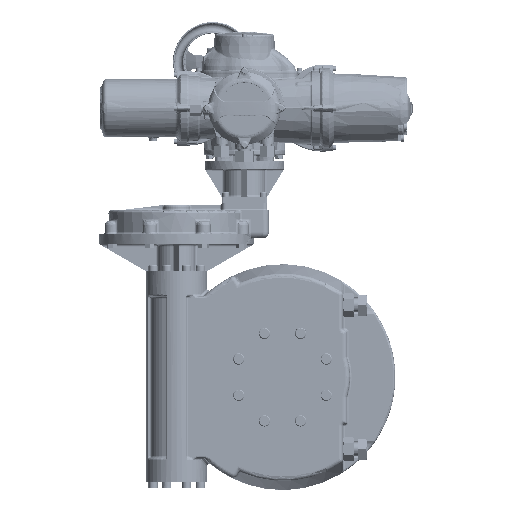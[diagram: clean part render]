
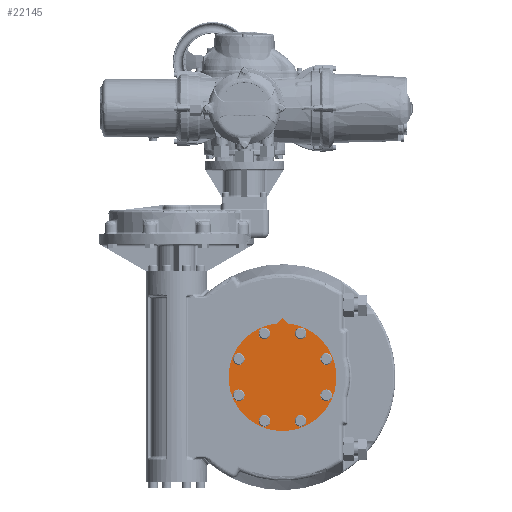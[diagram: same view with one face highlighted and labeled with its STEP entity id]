
A CAD part, front view. The second image highlights one B-rep face of the part: STEP entity #22145.
In plain terms, the highlighted planar face has unit normal (0, -1, 0).
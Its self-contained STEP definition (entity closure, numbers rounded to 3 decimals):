
#22145 = ADVANCED_FACE( '', ( #45893, #45894, #45895, #45896, #45897, #45898, #45899, #45900, #45901 ), #45902, .F. );
#45893 = FACE_BOUND( '', #322250, .T. );
#45894 = FACE_BOUND( '', #322251, .T. );
#45895 = FACE_BOUND( '', #322252, .T. );
#45896 = FACE_BOUND( '', #322253, .T. );
#45897 = FACE_OUTER_BOUND( '', #322254, .T. );
#45898 = FACE_BOUND( '', #322255, .T. );
#45899 = FACE_BOUND( '', #322256, .T. );
#45900 = FACE_BOUND( '', #322257, .T. );
#45901 = FACE_BOUND( '', #322258, .T. );
#45902 = PLANE( '', #322259 );
#322250 = EDGE_LOOP( '', ( #421694 ) );
#322251 = EDGE_LOOP( '', ( #421695 ) );
#322252 = EDGE_LOOP( '', ( #421696 ) );
#322253 = EDGE_LOOP( '', ( #421697 ) );
#322254 = EDGE_LOOP( '', ( #421698, #421699, #421700 ) );
#322255 = EDGE_LOOP( '', ( #421701 ) );
#322256 = EDGE_LOOP( '', ( #421702 ) );
#322257 = EDGE_LOOP( '', ( #421703 ) );
#322258 = EDGE_LOOP( '', ( #421704 ) );
#322259 = AXIS2_PLACEMENT_3D( '', #421705, #421706, #421707 );
#421694 = ORIENTED_EDGE( '', *, *, #445129, .F. );
#421695 = ORIENTED_EDGE( '', *, *, #436410, .F. );
#421696 = ORIENTED_EDGE( '', *, *, #453626, .F. );
#421697 = ORIENTED_EDGE( '', *, *, #431856, .F. );
#421698 = ORIENTED_EDGE( '', *, *, #437914, .F. );
#421699 = ORIENTED_EDGE( '', *, *, #453627, .F. );
#421700 = ORIENTED_EDGE( '', *, *, #448980, .F. );
#421701 = ORIENTED_EDGE( '', *, *, #443522, .F. );
#421702 = ORIENTED_EDGE( '', *, *, #438401, .F. );
#421703 = ORIENTED_EDGE( '', *, *, #431432, .F. );
#421704 = ORIENTED_EDGE( '', *, *, #451652, .F. );
#421705 = CARTESIAN_POINT( '', ( 100.49, -63., -710.1 ) );
#421706 = DIRECTION( '', ( 0., 1., 0. ) );
#421707 = DIRECTION( '', ( 0., 0., 1. ) );
#431432 = EDGE_CURVE( '', #459857, #459857, #459858, .T. );
#431856 = EDGE_CURVE( '', #460588, #460588, #460589, .T. );
#436410 = EDGE_CURVE( '', #468184, #468184, #468185, .T. );
#437914 = EDGE_CURVE( '', #470532, #470534, #470535, .T. );
#438401 = EDGE_CURVE( '', #471272, #471272, #471273, .T. );
#443522 = EDGE_CURVE( '', #478626, #478626, #478627, .T. );
#445129 = EDGE_CURVE( '', #480829, #480829, #480830, .T. );
#448980 = EDGE_CURVE( '', #470534, #485707, #485708, .T. );
#451652 = EDGE_CURVE( '', #488769, #488769, #488770, .T. );
#453626 = EDGE_CURVE( '', #490855, #490855, #490856, .T. );
#453627 = EDGE_CURVE( '', #485707, #470532, #490857, .T. );
#459857 = VERTEX_POINT( '', #517644 );
#459858 = CIRCLE( '', #517645, 15.35 );
#460588 = VERTEX_POINT( '', #521982 );
#460589 = CIRCLE( '', #521983, 15.35 );
#468184 = VERTEX_POINT( '', #560617 );
#468185 = CIRCLE( '', #560618, 15.35 );
#470532 = VERTEX_POINT( '', #574015 );
#470534 = VERTEX_POINT( '', #574018 );
#470535 = LINE( '', #574019, #574020 );
#471272 = VERTEX_POINT( '', #577537 );
#471273 = CIRCLE( '', #577538, 15.35 );
#478626 = VERTEX_POINT( '', #616045 );
#478627 = CIRCLE( '', #616046, 15.35 );
#480829 = VERTEX_POINT( '', #628963 );
#480830 = CIRCLE( '', #628964, 15.35 );
#485707 = VERTEX_POINT( '', #654399 );
#485708 = LINE( '', #654400, #654401 );
#488769 = VERTEX_POINT( '', #670408 );
#488770 = CIRCLE( '', #670409, 15.35 );
#490855 = VERTEX_POINT( '', #678851 );
#490856 = CIRCLE( '', #678852, 15.35 );
#490857 = CIRCLE( '', #678853, 142.5 );
#517644 = CARTESIAN_POINT( '', ( 159.18, -63., -583.761 ) );
#517645 = AXIS2_PLACEMENT_3D( '', #685009, #685010, #685011 );
#521982 = CARTESIAN_POINT( '', ( 148.325, -63., -840.935 ) );
#521983 = AXIS2_PLACEMENT_3D( '', #685475, #685476, #685477 );
#560617 = CARTESIAN_POINT( '', ( -25.849, -63., -651.41 ) );
#560618 = AXIS2_PLACEMENT_3D( '', #690485, #690486, #690487 );
#574015 = CARTESIAN_POINT( '', ( 85.163, -63., -568.427 ) );
#574018 = CARTESIAN_POINT( '', ( 100.49, -63., -553.1 ) );
#574019 = CARTESIAN_POINT( '', ( 100.49, -63., -553.1 ) );
#574020 = VECTOR( '', #691970, 1000. );
#577537 = CARTESIAN_POINT( '', ( -30.345, -63., -757.935 ) );
#577538 = AXIS2_PLACEMENT_3D( '', #692451, #692452, #692453 );
#616045 = CARTESIAN_POINT( '', ( 231.325, -63., -662.265 ) );
#616046 = AXIS2_PLACEMENT_3D( '', #697713, #697714, #697715 );
#628963 = CARTESIAN_POINT( '', ( 226.829, -63., -768.79 ) );
#628964 = AXIS2_PLACEMENT_3D( '', #699361, #699362, #699363 );
#654399 = CARTESIAN_POINT( '', ( 115.817, -63., -568.427 ) );
#654400 = CARTESIAN_POINT( '', ( 100.49, -63., -553.1 ) );
#654401 = VECTOR( '', #702870, 1000. );
#670408 = CARTESIAN_POINT( '', ( 41.8, -63., -836.439 ) );
#670409 = AXIS2_PLACEMENT_3D( '', #704991, #704992, #704993 );
#678851 = CARTESIAN_POINT( '', ( 52.655, -63., -579.265 ) );
#678852 = AXIS2_PLACEMENT_3D( '', #706128, #706129, #706130 );
#678853 = AXIS2_PLACEMENT_3D( '', #706131, #706132, #706133 );
#685009 = CARTESIAN_POINT( '', ( 148.325, -63., -594.615 ) );
#685010 = DIRECTION( '', ( 0., -1., 0. ) );
#685011 = DIRECTION( '', ( 0.707, 0., 0.707 ) );
#685475 = CARTESIAN_POINT( '', ( 148.325, -63., -825.585 ) );
#685476 = DIRECTION( '', ( 0., -1., 0. ) );
#685477 = DIRECTION( '', ( 0., 0., -1. ) );
#690485 = CARTESIAN_POINT( '', ( -14.995, -63., -662.265 ) );
#690486 = DIRECTION( '', ( 0., -1., 0. ) );
#690487 = DIRECTION( '', ( -0.707, 0., 0.707 ) );
#691970 = DIRECTION( '', ( 0.707, 0., 0.707 ) );
#692451 = CARTESIAN_POINT( '', ( -14.995, -63., -757.935 ) );
#692452 = DIRECTION( '', ( 0., -1., 0. ) );
#692453 = DIRECTION( '', ( -1., 0., 0. ) );
#697713 = CARTESIAN_POINT( '', ( 215.975, -63., -662.265 ) );
#697714 = DIRECTION( '', ( 0., -1., 0. ) );
#697715 = DIRECTION( '', ( 1., 0., 0. ) );
#699361 = CARTESIAN_POINT( '', ( 215.975, -63., -757.935 ) );
#699362 = DIRECTION( '', ( 0., -1., 0. ) );
#699363 = DIRECTION( '', ( 0.707, 0., -0.707 ) );
#702870 = DIRECTION( '', ( 0.707, 0., -0.707 ) );
#704991 = CARTESIAN_POINT( '', ( 52.655, -63., -825.585 ) );
#704992 = DIRECTION( '', ( 0., -1., 0. ) );
#704993 = DIRECTION( '', ( -0.707, 0., -0.707 ) );
#706128 = CARTESIAN_POINT( '', ( 52.655, -63., -594.615 ) );
#706129 = DIRECTION( '', ( 0., -1., 0. ) );
#706130 = DIRECTION( '', ( 0., 0., 1. ) );
#706131 = CARTESIAN_POINT( '', ( 100.49, -63., -710.1 ) );
#706132 = DIRECTION( '', ( 0., 1., 0. ) );
#706133 = DIRECTION( '', ( 0., 0., 1. ) );
